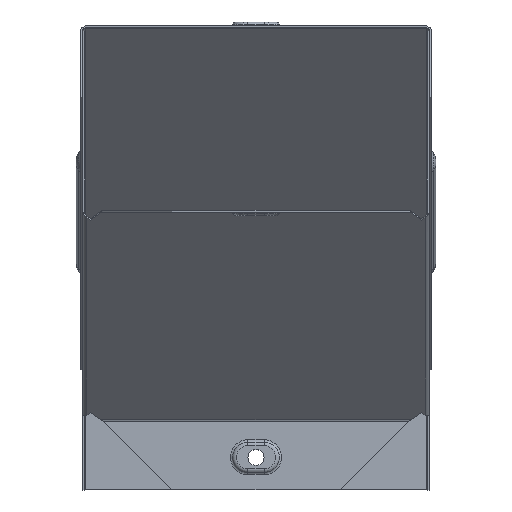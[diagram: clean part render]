
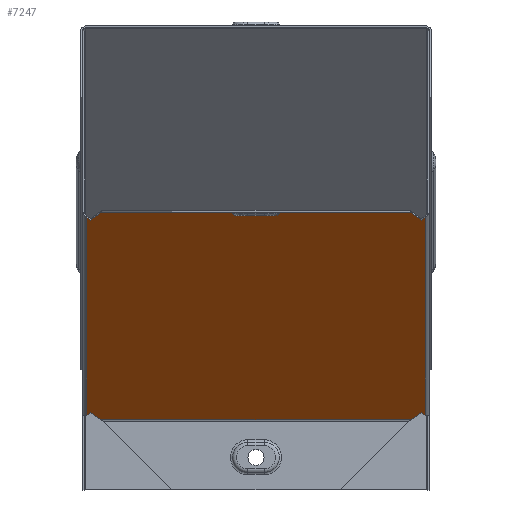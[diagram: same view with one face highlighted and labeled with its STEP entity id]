
A CAD part, top view. The second image highlights one B-rep face of the part: STEP entity #7247.
In plain terms, the highlighted planar face has unit normal (0, -0.707, 0.707).
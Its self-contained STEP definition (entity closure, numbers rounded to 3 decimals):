
#1 = CARTESIAN_POINT ( 'NONE',  ( -36.546, 81.369, 51.369 ) ) ;
#26 = VECTOR ( 'NONE', #5104, 1000. ) ;
#44 = CARTESIAN_POINT ( 'NONE',  ( 75.299, -29.208, -59.208 ) ) ;
#62 = CARTESIAN_POINT ( 'NONE',  ( -36.546, -51.369, -81.369 ) ) ;
#263 = VECTOR ( 'NONE', #5168, 1000. ) ;
#451 = VERTEX_POINT ( 'NONE', #5403 ) ;
#496 = DIRECTION ( 'NONE',  ( -0.707, -0.5, -0.5 ) ) ;
#518 = CARTESIAN_POINT ( 'NONE',  ( 75.299, 59.208, 29.208 ) ) ;
#537 = CARTESIAN_POINT ( 'NONE',  ( 36.546, -51.369, -81.369 ) ) ;
#588 = DIRECTION ( 'NONE',  ( 0., -0.707, -0.707 ) ) ;
#645 = FACE_OUTER_BOUND ( 'NONE', #2652, .T. ) ;
#778 = VERTEX_POINT ( 'NONE', #7884 ) ;
#955 = ORIENTED_EDGE ( 'NONE', *, *, #973, .T. ) ;
#973 = EDGE_CURVE ( 'NONE', #6775, #7206, #5376, .T. ) ;
#1056 = LINE ( 'NONE', #1, #4639 ) ;
#1199 = VERTEX_POINT ( 'NONE', #1976 ) ;
#1368 = AXIS2_PLACEMENT_3D ( 'NONE', #5328, #7216, #6041 ) ;
#1481 = ORIENTED_EDGE ( 'NONE', *, *, #7533, .T. ) ;
#1614 = LINE ( 'NONE', #62, #1924 ) ;
#1849 = VECTOR ( 'NONE', #7436, 1000. ) ;
#1874 = CARTESIAN_POINT ( 'NONE',  ( 73.2, 57.724, 27.724 ) ) ;
#1895 = ORIENTED_EDGE ( 'NONE', *, *, #5783, .T. ) ;
#1924 = VECTOR ( 'NONE', #5133, 1000. ) ;
#1976 = CARTESIAN_POINT ( 'NONE',  ( 71.592, -26.588, -56.588 ) ) ;
#2036 = ORIENTED_EDGE ( 'NONE', *, *, #5943, .T. ) ;
#2087 = EDGE_CURVE ( 'NONE', #2501, #6439, #2795, .T. ) ;
#2129 = DIRECTION ( 'NONE',  ( -0.707, 0.5, 0.5 ) ) ;
#2298 = LINE ( 'NONE', #518, #2589 ) ;
#2501 = VERTEX_POINT ( 'NONE', #3385 ) ;
#2586 = CARTESIAN_POINT ( 'NONE',  ( 73.2, -29.707, -59.707 ) ) ;
#2589 = VECTOR ( 'NONE', #496, 1000. ) ;
#2652 = EDGE_LOOP ( 'NONE', ( #2656, #955, #2036, #1895, #5296, #1481, #7353, #5782, #7558, #3459, #7313, #4095 ) ) ;
#2656 = ORIENTED_EDGE ( 'NONE', *, *, #3629, .T. ) ;
#2762 = EDGE_CURVE ( 'NONE', #778, #1199, #7277, .T. ) ;
#2795 = LINE ( 'NONE', #6079, #6221 ) ;
#3059 = CARTESIAN_POINT ( 'NONE',  ( 36.546, 81.369, 51.369 ) ) ;
#3228 = LINE ( 'NONE', #2586, #5262 ) ;
#3277 = VERTEX_POINT ( 'NONE', #5257 ) ;
#3375 = CARTESIAN_POINT ( 'NONE',  ( -73.2, 57.724, 27.724 ) ) ;
#3385 = CARTESIAN_POINT ( 'NONE',  ( -73.2, -27.724, -57.724 ) ) ;
#3459 = ORIENTED_EDGE ( 'NONE', *, *, #2762, .T. ) ;
#3629 = EDGE_CURVE ( 'NONE', #5324, #6775, #2298, .T. ) ;
#4095 = ORIENTED_EDGE ( 'NONE', *, *, #4415, .F. ) ;
#4113 = LINE ( 'NONE', #5613, #4803 ) ;
#4319 = CARTESIAN_POINT ( 'NONE',  ( -71.592, -26.588, -56.588 ) ) ;
#4415 = EDGE_CURVE ( 'NONE', #5324, #3277, #4763, .T. ) ;
#4493 = CARTESIAN_POINT ( 'NONE',  ( 73.2, 59.707, 29.707 ) ) ;
#4625 = VECTOR ( 'NONE', #6460, 1000. ) ;
#4639 = VECTOR ( 'NONE', #7669, 1000. ) ;
#4756 = CARTESIAN_POINT ( 'NONE',  ( 71.592, 56.588, 26.588 ) ) ;
#4763 = LINE ( 'NONE', #5046, #5992 ) ;
#4803 = VECTOR ( 'NONE', #588, 1000. ) ;
#5046 = CARTESIAN_POINT ( 'NONE',  ( 73.2, 60., 30. ) ) ;
#5104 = DIRECTION ( 'NONE',  ( 0.707, 0.5, 0.5 ) ) ;
#5133 = DIRECTION ( 'NONE',  ( 0.707, -0.5, -0.5 ) ) ;
#5168 = DIRECTION ( 'NONE',  ( -1., 0., 0. ) ) ;
#5257 = CARTESIAN_POINT ( 'NONE',  ( 73.2, -27.724, -57.724 ) ) ;
#5262 = VECTOR ( 'NONE', #7066, 1000. ) ;
#5296 = ORIENTED_EDGE ( 'NONE', *, *, #6684, .T. ) ;
#5324 = VERTEX_POINT ( 'NONE', #1874 ) ;
#5328 = CARTESIAN_POINT ( 'NONE',  ( 73.2, 60., 30. ) ) ;
#5376 = LINE ( 'NONE', #3059, #1849 ) ;
#5395 = EDGE_CURVE ( 'NONE', #1199, #3277, #6351, .T. ) ;
#5403 = CARTESIAN_POINT ( 'NONE',  ( -71.592, 56.588, 26.588 ) ) ;
#5613 = CARTESIAN_POINT ( 'NONE',  ( -73.2, 60., 30. ) ) ;
#5782 = ORIENTED_EDGE ( 'NONE', *, *, #7640, .T. ) ;
#5783 = EDGE_CURVE ( 'NONE', #7702, #451, #1056, .T. ) ;
#5901 = CARTESIAN_POINT ( 'NONE',  ( 67.181, 59.707, 29.707 ) ) ;
#5943 = EDGE_CURVE ( 'NONE', #7206, #7702, #6858, .T. ) ;
#5961 = CARTESIAN_POINT ( 'NONE',  ( -75.299, 59.208, 29.208 ) ) ;
#5968 = DIRECTION ( 'NONE',  ( 0.707, 0.5, 0.5 ) ) ;
#5992 = VECTOR ( 'NONE', #6393, 1000. ) ;
#6041 = DIRECTION ( 'NONE',  ( 0., 0.707, 0.707 ) ) ;
#6079 = CARTESIAN_POINT ( 'NONE',  ( -75.299, -29.208, -59.208 ) ) ;
#6221 = VECTOR ( 'NONE', #5968, 1000. ) ;
#6351 = LINE ( 'NONE', #44, #4625 ) ;
#6393 = DIRECTION ( 'NONE',  ( 0., -0.707, -0.707 ) ) ;
#6439 = VERTEX_POINT ( 'NONE', #4319 ) ;
#6460 = DIRECTION ( 'NONE',  ( 0.707, -0.5, -0.5 ) ) ;
#6575 = PLANE ( 'NONE',  #1368 ) ;
#6577 = EDGE_CURVE ( 'NONE', #778, #7439, #3228, .T. ) ;
#6684 = EDGE_CURVE ( 'NONE', #451, #7663, #7824, .T. ) ;
#6775 = VERTEX_POINT ( 'NONE', #4756 ) ;
#6858 = LINE ( 'NONE', #4493, #263 ) ;
#6924 = CARTESIAN_POINT ( 'NONE',  ( -67.181, -29.707, -59.707 ) ) ;
#7066 = DIRECTION ( 'NONE',  ( -1., 0., 0. ) ) ;
#7196 = CARTESIAN_POINT ( 'NONE',  ( -67.181, 59.707, 29.707 ) ) ;
#7206 = VERTEX_POINT ( 'NONE', #5901 ) ;
#7216 = DIRECTION ( 'NONE',  ( 0., 0.707, -0.707 ) ) ;
#7247 = ADVANCED_FACE ( 'NONE', ( #645 ), #6575, .F. ) ;
#7277 = LINE ( 'NONE', #537, #26 ) ;
#7313 = ORIENTED_EDGE ( 'NONE', *, *, #5395, .T. ) ;
#7353 = ORIENTED_EDGE ( 'NONE', *, *, #2087, .T. ) ;
#7436 = DIRECTION ( 'NONE',  ( -0.707, 0.5, 0.5 ) ) ;
#7439 = VERTEX_POINT ( 'NONE', #6924 ) ;
#7533 = EDGE_CURVE ( 'NONE', #7663, #2501, #4113, .T. ) ;
#7558 = ORIENTED_EDGE ( 'NONE', *, *, #6577, .F. ) ;
#7640 = EDGE_CURVE ( 'NONE', #6439, #7439, #1614, .T. ) ;
#7663 = VERTEX_POINT ( 'NONE', #3375 ) ;
#7669 = DIRECTION ( 'NONE',  ( -0.707, -0.5, -0.5 ) ) ;
#7702 = VERTEX_POINT ( 'NONE', #7196 ) ;
#7713 = VECTOR ( 'NONE', #2129, 1000. ) ;
#7824 = LINE ( 'NONE', #5961, #7713 ) ;
#7884 = CARTESIAN_POINT ( 'NONE',  ( 67.181, -29.707, -59.707 ) ) ;
